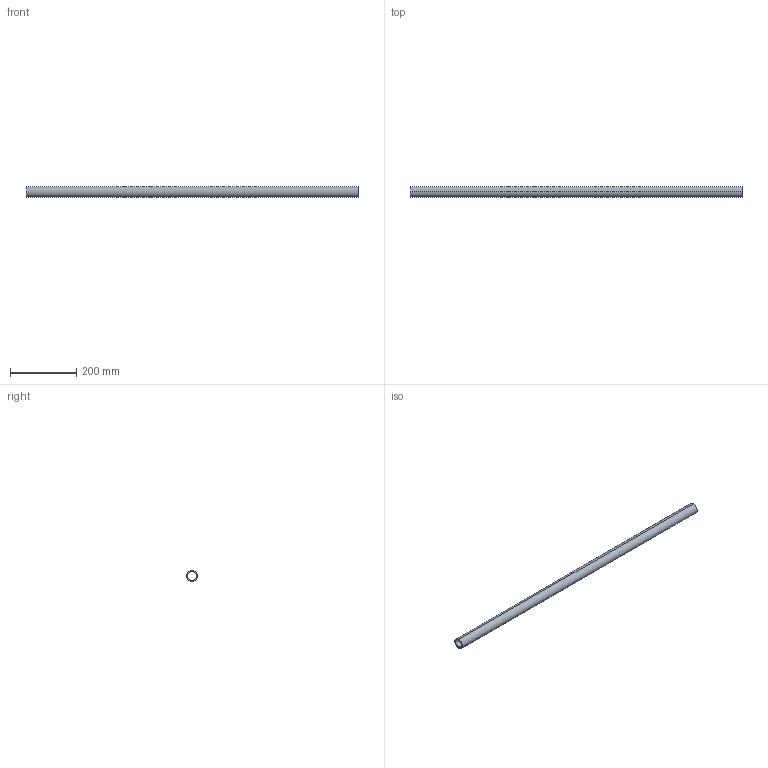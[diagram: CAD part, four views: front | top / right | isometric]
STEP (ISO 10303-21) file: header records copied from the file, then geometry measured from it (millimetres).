
FILE_DESCRIPTION (( 'STEP AP203' ), '1' );
FILE_NAME ('KP_32EC6.step', '2011-08-08T11:50:18', ( '' ), ( '' ), 'SwSTEP 2.0', 'SolidWorks 2011', '' );
FILE_SCHEMA (( 'CONFIG_CONTROL_DESIGN' ));
Length unit declared in the file: millimetre
Products named in the file (1): KP_32EC6
Bounding box: 1000 x 32.15 x 32.15 mm (x, y, z)
Volume: 282916.1 mm3; surface area: 183092.4 mm2
Topology: 1 solids, 1 shells, 6 faces, 12 edges, 8 vertices
Faces by surface type: cylinder 4, plane 2
Entity records: 245 total; most frequent: DIRECTION 34, CARTESIAN_POINT 27, ORIENTED_EDGE 24, AXIS2_PLACEMENT_3D 15, EDGE_CURVE 12, VERTEX_POINT 8, EDGE_LOOP 8, CIRCLE 8
